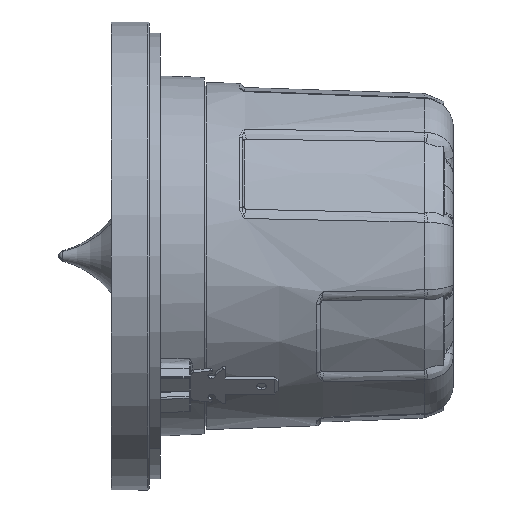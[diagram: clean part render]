
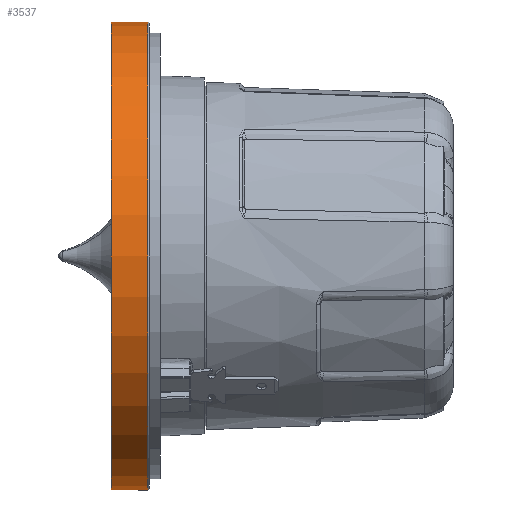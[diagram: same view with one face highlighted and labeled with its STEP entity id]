
A CAD part, left-side view. The second image highlights one B-rep face of the part: STEP entity #3537.
In plain terms, the highlighted cylindrical face has radius 31 mm (diameter 62 mm), a partial arc.
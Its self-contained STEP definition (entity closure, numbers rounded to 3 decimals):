
#891 = ORIENTED_EDGE ( 'NONE', *, *, #16670, .T. ) ;
#1704 = CARTESIAN_POINT ( 'NONE',  ( 0., 16.992, -31. ) ) ;
#2569 = EDGE_CURVE ( 'NONE', #19780, #25391, #4845, .T. ) ;
#2852 = DIRECTION ( 'NONE',  ( 0., 1., 0. ) ) ;
#3253 = CARTESIAN_POINT ( 'NONE',  ( 0., 21.292, -31. ) ) ;
#3537 = ADVANCED_FACE ( 'NONE', ( #22876 ), #15976, .T. ) ;
#3572 = CARTESIAN_POINT ( 'NONE',  ( 0., 16.992, 0. ) ) ;
#4640 = CIRCLE ( 'NONE', #30452, 31. ) ;
#4845 = CIRCLE ( 'NONE', #11265, 31. ) ;
#5229 = CARTESIAN_POINT ( 'NONE',  ( 0., 16.492, 31. ) ) ;
#8223 = VECTOR ( 'NONE', #22086, 1000. ) ;
#8997 = DIRECTION ( 'NONE',  ( 0., -1., 0. ) ) ;
#9514 = CARTESIAN_POINT ( 'NONE',  ( 0., 16.492, -31. ) ) ;
#9634 = ORIENTED_EDGE ( 'NONE', *, *, #2569, .T. ) ;
#11154 = DIRECTION ( 'NONE',  ( 0., -1., 0. ) ) ;
#11265 = AXIS2_PLACEMENT_3D ( 'NONE', #16181, #11504, #28487 ) ;
#11344 = ORIENTED_EDGE ( 'NONE', *, *, #26932, .F. ) ;
#11504 = DIRECTION ( 'NONE',  ( 0., -1., 0. ) ) ;
#12094 = CARTESIAN_POINT ( 'NONE',  ( 0., 16.992, 31. ) ) ;
#12413 = VERTEX_POINT ( 'NONE', #5229 ) ;
#14015 = CARTESIAN_POINT ( 'NONE',  ( 0., 16.492, 0. ) ) ;
#15976 = CYLINDRICAL_SURFACE ( 'NONE', #20966, 31. ) ;
#16181 = CARTESIAN_POINT ( 'NONE',  ( 0., 21.292, 0. ) ) ;
#16544 = DIRECTION ( 'NONE',  ( 0., 0., -1. ) ) ;
#16557 = EDGE_LOOP ( 'NONE', ( #11344, #9634, #27877, #891 ) ) ;
#16670 = EDGE_CURVE ( 'NONE', #24886, #12413, #4640, .T. ) ;
#19780 = VERTEX_POINT ( 'NONE', #26706 ) ;
#20671 = DIRECTION ( 'NONE',  ( 0., 0., -1. ) ) ;
#20966 = AXIS2_PLACEMENT_3D ( 'NONE', #3572, #8997, #20671 ) ;
#22086 = DIRECTION ( 'NONE',  ( 0., -1., 0. ) ) ;
#22738 = EDGE_CURVE ( 'NONE', #25391, #24886, #30487, .T. ) ;
#22876 = FACE_OUTER_BOUND ( 'NONE', #16557, .T. ) ;
#24442 = LINE ( 'NONE', #12094, #8223 ) ;
#24886 = VERTEX_POINT ( 'NONE', #9514 ) ;
#25391 = VERTEX_POINT ( 'NONE', #3253 ) ;
#26706 = CARTESIAN_POINT ( 'NONE',  ( 0., 21.292, 31. ) ) ;
#26768 = VECTOR ( 'NONE', #11154, 1000. ) ;
#26932 = EDGE_CURVE ( 'NONE', #19780, #12413, #24442, .T. ) ;
#27877 = ORIENTED_EDGE ( 'NONE', *, *, #22738, .T. ) ;
#28487 = DIRECTION ( 'NONE',  ( 0., 0., -1. ) ) ;
#30452 = AXIS2_PLACEMENT_3D ( 'NONE', #14015, #2852, #16544 ) ;
#30487 = LINE ( 'NONE', #1704, #26768 ) ;
